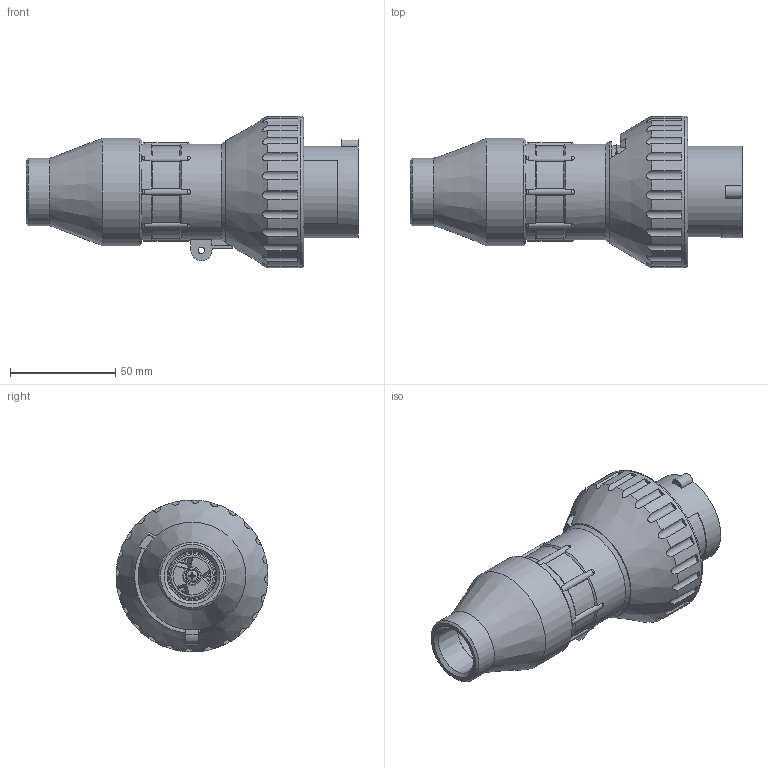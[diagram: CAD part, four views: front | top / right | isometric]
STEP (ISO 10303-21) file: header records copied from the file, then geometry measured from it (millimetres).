
FILE_DESCRIPTION((''),'2;1');
FILE_NAME('C:\Users\A.V.Nesterov\Desktop\111\3D\ТЗ\ТЗ 111857\ВГМЕ-16-250-2_3D.stp','2024-09-25T12:15:43',('A.V.Nesterov'),(''),'Autodesk Inventor 2012','Autodesk Inventor 2012','');
FILE_SCHEMA(('AUTOMOTIVE_DESIGN { 1 0 10303 214 1 1 1 1 }'));
Length unit declared in the file: millimetre
Products named in the file (1): ВГМЕ-16-250-2_3D
Bounding box: 157.5 x 71.99 x 71.99 mm (x, y, z)
Surface area: 104630.6 mm2 (no closed solid volume)
Topology: 0 solids, 18 shells, 1014 faces, 2746 edges, 1803 vertices
Faces by surface type: plane 616, cylinder 237, cone 66, bspline 57, torus 30, revolution 8
Full cylindrical faces by diameter (mm): 2 x2, 2.2 x8, 2.5 x2, 2.85 x3, 2.9 x2, 3 x1, 3.2 x1, 3.3 x3, 3.5 x3, 4.2 x4, 4.4 x3, 4.8 x1, 4.95 x2, 5.4 x1, 5.65 x2, 6.3 x1, 6.65 x3, 6.85 x2, 6.95 x1, 7.4 x2, 7.5 x2, 7.65 x4, 9.35 x1, 9.5 x1, 18.1 x1, 20.1 x1, 22.1 x1, 22.631 x1, 22.924 x1, 24.9 x1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
Entity records: 38252 total; most frequent: CARTESIAN_POINT 13397, ORIENTED_EDGE 5024, DIRECTION 4766, EDGE_CURVE 2512, VERTEX_POINT 1698, AXIS2_PLACEMENT_3D 1645, VECTOR 1468, LINE 1468
